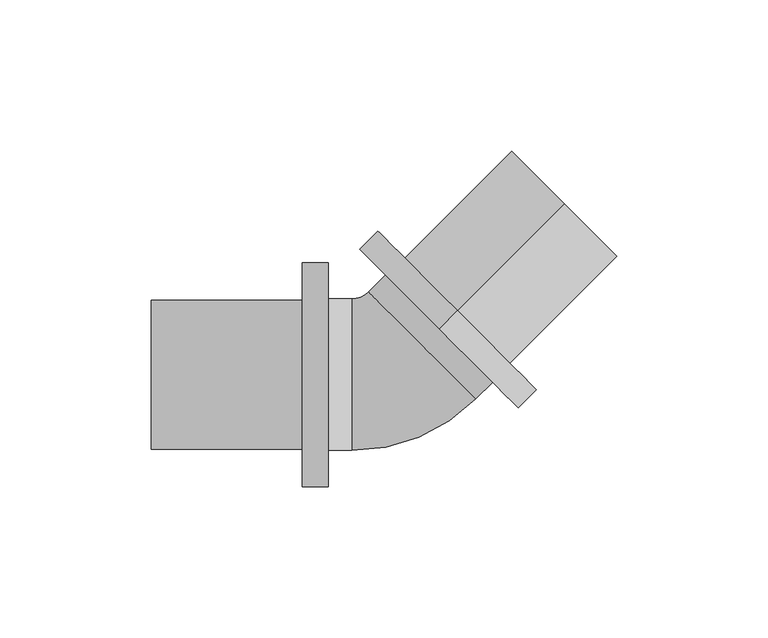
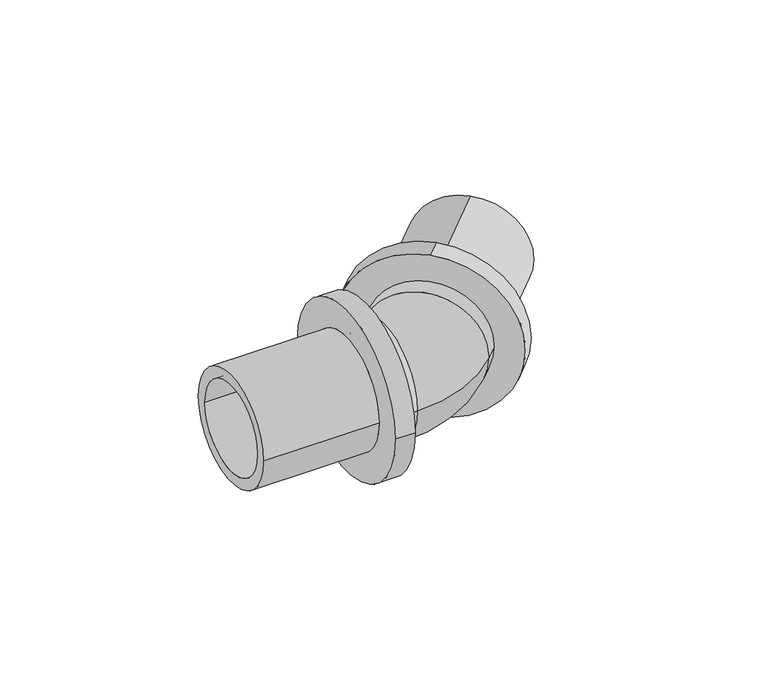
"""IFC4 building model written with IfcOpenShell, lengths in millimetres: pipe fitting geometry, RAUTITAN_Corner_RX+ : RTI RX+ C DN."""

from ifc_helpers import new_model, si_unit, point, frame, origin, place, context, project, spatial, polyline, circle_curve, ellipse_curve, trimmed, source, transform, mapped, element, save
from ifc_brep_helpers import plane_surface, cylinder_surface, revolved_surface, advanced_brep


def pipe_fitting_d3b0917d(model_context):
    return source(origin(), model_context, "Body", "AdvancedBrep", [
        advanced_brep(
        [(21.2132034, 21.2132034, 37.05), (21.2132034, 21.2132034, -37.05), (15.2027958, 15.2027958, -37.05), (15.2027958, 15.2027958, 37.05), (56.5685425, 56.5685425, 24.65), (56.5685425, 56.5685425, -24.65), (21.2132034, 21.2132034, -24.65), (21.2132034, 21.2132034, 24.65), (15.2027958, 15.2027958, 19.75), (15.2027958, 15.2027958, -19.75), (56.5685425, 56.5685425, -19.75), (56.5685425, 56.5685425, 19.75)],
        [
            (0, 1, circle_curve(frame((21.2132034, 21.2132034, 0.0), z_axis=(-0.707106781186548, -0.707106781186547, 0.0), x_axis=(0.0, 0.0, -1.0)), 37.05)),
            (1, 2),
            (2, 3, circle_curve(frame((15.2027958, 15.2027958, 0.0), z_axis=(0.707106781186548, 0.707106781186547, 0.0), x_axis=(0.0, 0.0, -1.0)), 37.05)),
            (3, 0),
            (4, 5, circle_curve(frame((56.5685425, 56.5685425, 0.0), z_axis=(-0.707106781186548, -0.707106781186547, 0.0), x_axis=(0.0, 0.0, -1.0)), 24.65)),
            (5, 6),
            (6, 7, circle_curve(frame((21.2132034, 21.2132034, 0.0), z_axis=(0.707106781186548, 0.707106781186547, 0.0), x_axis=(0.0, 0.0, -1.0)), 24.65)),
            (7, 4),
            (8, 9, circle_curve(frame((15.2027958, 15.2027958, 0.0), z_axis=(-0.707106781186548, -0.707106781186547, 0.0), x_axis=(0.0, 0.0, -1.0)), 19.75)),
            (9, 10),
            (10, 11, circle_curve(frame((56.5685425, 56.5685425, 0.0), z_axis=(0.707106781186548, 0.707106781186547, 0.0), x_axis=(0.0, 0.0, -1.0)), 19.75)),
            (11, 8),
            (1, 0, circle_curve(frame((21.2132034, 21.2132034, 0.0), z_axis=(-0.707106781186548, -0.707106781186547, 0.0), x_axis=(0.0, 0.0, 1.0)), 37.05)),
            (3, 2, circle_curve(frame((15.2027958, 15.2027958, 0.0), z_axis=(0.707106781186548, 0.707106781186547, 0.0), x_axis=(0.0, 0.0, 1.0)), 37.05)),
            (6, 7, circle_curve(frame((21.2132034, 21.2132034, 0.0), z_axis=(-0.707106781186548, -0.707106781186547, 0.0), x_axis=(0.0, 0.0, 1.0)), 24.65)),
            (5, 4, circle_curve(frame((56.5685425, 56.5685425, 0.0), z_axis=(-0.707106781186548, -0.707106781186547, 0.0), x_axis=(0.0, 0.0, 1.0)), 24.65)),
            (10, 11, circle_curve(frame((56.5685425, 56.5685425, 0.0), z_axis=(-0.707106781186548, -0.707106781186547, 0.0), x_axis=(0.0, 0.0, 1.0)), 19.75)),
            (9, 8, circle_curve(frame((15.2027958, 15.2027958, 0.0), z_axis=(-0.707106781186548, -0.707106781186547, 0.0), x_axis=(0.0, 0.0, 1.0)), 19.75)),
        ],
        [
            cylinder_surface(frame((15.2027958, 15.2027958, 0.0), z_axis=(0.707106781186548, 0.707106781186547, 0.0), x_axis=(0.0, 0.0, -1.0)), 37.05),
            cylinder_surface(frame((15.2027958, 15.2027958, 0.0), z_axis=(0.707106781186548, 0.707106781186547, 0.0), x_axis=(0.0, 0.0, -1.0)), 24.65),
            revolved_surface(polyline([(56.568542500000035, 56.56854249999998, -19.75), (15.2027958, 15.2027958, -19.75)]), (15.2027958, 15.2027958, 0.0), (0.707106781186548, 0.707106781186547, 0.0)),
            cylinder_surface(frame((15.2027958, 15.2027958, 0.0), z_axis=(0.707106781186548, 0.707106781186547, 0.0), x_axis=(0.0, 0.0, 1.0)), 37.05),
            plane_surface(frame((21.2132034, 21.2132034, 0.0), z_axis=(0.707106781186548, 0.707106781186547, 0.0), x_axis=(0.0, 0.0, 1.0))),
            cylinder_surface(frame((15.2027958, 15.2027958, 0.0), z_axis=(0.707106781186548, 0.707106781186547, 0.0), x_axis=(0.0, 0.0, 1.0)), 24.65),
            plane_surface(frame((56.5685425, 56.5685425, 0.0), z_axis=(0.707106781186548, 0.707106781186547, 0.0), x_axis=(0.0, 0.0, 1.0))),
            revolved_surface(polyline([(56.568542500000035, 56.56854249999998, 19.75), (15.2027958, 15.2027958, 19.75)]), (15.2027958, 15.2027958, 0.0), (0.707106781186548, 0.707106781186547, 0.0)),
            plane_surface(frame((15.2027958, 15.2027958, 0.0), z_axis=(-0.707106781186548, -0.707106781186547, 0.0), x_axis=(0.0, 0.0, 1.0))),
        ],
        [
            (0, [[1, 2, 3, 4]]),
            (1, [[5, 6, 7, 8]]),
            (2, [[9, 10, 11, 12]]),
            (3, [[13, -4, 14, -2]]),
            (4, [[-13, -1], [15, -7]]),
            (5, [[16, -8, -15, -6]]),
            (6, [[-16, -5], [17, -11]]),
            (7, [[18, -12, -17, -10]]),
            (8, [[-14, -3], [-18, -9]]),
        ],
    ),
        advanced_brep(
        [(-30.0, -37.05, 0.0), (-30.0, 37.05, 0.0), (-21.5, 37.05, 0.0), (-21.5, -37.05, 0.0), (-80.0, -24.65, 0.0), (-80.0, 24.65, 0.0), (-30.0, 24.65, 0.0), (-30.0, -24.65, 0.0), (-21.5, -19.75, 0.0), (-21.5, 19.75, 0.0), (-80.0, 19.75, 0.0), (-80.0, -19.75, 0.0)],
        [
            (0, 1, circle_curve(frame((-30.0, 0.0, 0.0), z_axis=(1.0, 0.0, 0.0), x_axis=(0.0, 1.0, 0.0)), 37.05)),
            (1, 2),
            (2, 3, circle_curve(frame((-21.5, 0.0, 0.0), z_axis=(-1.0, 0.0, 0.0), x_axis=(0.0, 1.0, 0.0)), 37.05)),
            (3, 0),
            (4, 5, circle_curve(frame((-80.0, 0.0, 0.0), z_axis=(1.0, 0.0, 0.0), x_axis=(0.0, 1.0, 0.0)), 24.65)),
            (5, 6),
            (6, 7, circle_curve(frame((-30.0, 0.0, 0.0), z_axis=(-1.0, 0.0, 0.0), x_axis=(0.0, 1.0, 0.0)), 24.65)),
            (7, 4),
            (8, 9, circle_curve(frame((-21.5, 0.0, 0.0), z_axis=(1.0, 0.0, 0.0), x_axis=(0.0, 1.0, 0.0)), 19.75)),
            (9, 10),
            (10, 11, circle_curve(frame((-80.0, 0.0, 0.0), z_axis=(-1.0, 0.0, 0.0), x_axis=(0.0, 1.0, 0.0)), 19.75)),
            (11, 8),
            (1, 0, circle_curve(frame((-30.0, 0.0, 0.0), z_axis=(1.0, 0.0, 0.0), x_axis=(0.0, -1.0, 0.0)), 37.05)),
            (3, 2, circle_curve(frame((-21.5, 0.0, 0.0), z_axis=(-1.0, 0.0, 0.0), x_axis=(0.0, -1.0, 0.0)), 37.05)),
            (6, 7, circle_curve(frame((-30.0, 0.0, 0.0), z_axis=(1.0, 0.0, 0.0), x_axis=(0.0, -1.0, 0.0)), 24.65)),
            (5, 4, circle_curve(frame((-80.0, 0.0, 0.0), z_axis=(1.0, 0.0, 0.0), x_axis=(0.0, -1.0, 0.0)), 24.65)),
            (10, 11, circle_curve(frame((-80.0, 0.0, 0.0), z_axis=(1.0, 0.0, 0.0), x_axis=(0.0, -1.0, 0.0)), 19.75)),
            (9, 8, circle_curve(frame((-21.5, 0.0, 0.0), z_axis=(1.0, 0.0, 0.0), x_axis=(0.0, -1.0, 0.0)), 19.75)),
        ],
        [
            cylinder_surface(frame((-21.5, 0.0, 0.0), z_axis=(-1.0, 0.0, 0.0), x_axis=(0.0, 1.0, 0.0)), 37.05),
            cylinder_surface(frame((-21.5, 0.0, 0.0), z_axis=(-1.0, 0.0, 0.0), x_axis=(0.0, 1.0, 0.0)), 24.65),
            revolved_surface(polyline([(-80.0, 19.75, 0.0), (-21.5, 19.75, 0.0)]), (-21.5, 0.0, 0.0), (-1.0, 0.0, 0.0)),
            cylinder_surface(frame((-21.5, 0.0, 0.0), z_axis=(-1.0, 0.0, 0.0), x_axis=(0.0, -1.0, 0.0)), 37.05),
            plane_surface(frame((-30.0, 0.0, 0.0), z_axis=(-1.0, 0.0, 0.0), x_axis=(0.0, -1.0, 0.0))),
            cylinder_surface(frame((-21.5, 0.0, 0.0), z_axis=(-1.0, 0.0, 0.0), x_axis=(0.0, -1.0, 0.0)), 24.65),
            plane_surface(frame((-80.0, 0.0, 0.0), z_axis=(-1.0, 0.0, 0.0), x_axis=(0.0, -1.0, 0.0))),
            revolved_surface(polyline([(-80.0, -19.75, 0.0), (-21.5, -19.75, 0.0)]), (-21.5, 0.0, 0.0), (-1.0, 0.0, 0.0)),
            plane_surface(frame((-21.5, 0.0, 0.0), z_axis=(1.0, 0.0, 0.0), x_axis=(0.0, -1.0, 0.0))),
        ],
        [
            (0, [[1, 2, 3, 4]]),
            (1, [[5, 6, 7, 8]]),
            (2, [[9, 10, 11, 12]]),
            (3, [[13, -4, 14, -2]]),
            (4, [[-13, -1], [15, -7]]),
            (5, [[16, -8, -15, -6]]),
            (6, [[-16, -5], [17, -11]]),
            (7, [[18, -12, -17, -10]]),
            (8, [[-14, -3], [-18, -9]]),
        ],
    ),
        advanced_brep(
        [(-21.5, 25.05, 0.0), (-21.5, -25.05, 0.0), (-21.5, 19.75, 0.0), (-21.5, -19.75, 0.0), (-13.6690476, -19.75, 0.0), (-13.6690476, 0.0, -19.75), (-13.6690476, 19.75, 0.0), (-13.6690476, 0.0, 19.75), (-13.6690476, -25.05, 0.0), (-13.6690476, 25.05, 0.0), (32.9158207, -2.5102291, 0.0), (-2.5102291, 32.9158207, 0.0), (29.1681547, 1.2374369, 0.0), (1.2374369, 29.1681547, 0.0), (-4.2998827, 23.6308351, 0.0), (9.6654762, 9.6654762, -19.75), (23.6308351, -4.2998827, 0.0), (9.6654762, 9.6654762, 19.75), (-8.0475486, 27.3785011, 0.0), (27.3785011, -8.0475486, 0.0)],
        [
            (0, 1, circle_curve(frame((-21.5, 0.0, 0.0), z_axis=(-1.0, 0.0, 0.0), x_axis=(0.0, -1.0, 0.0)), 25.05)),
            (1, 0, circle_curve(frame((-21.5, 0.0, 0.0), z_axis=(-1.0, 0.0, 0.0), x_axis=(0.0, -1.0, 0.0)), 25.05)),
            (2, 3, circle_curve(frame((-21.5, 0.0, 0.0), z_axis=(1.0, 0.0, 0.0), x_axis=(0.0, -1.0, 0.0)), 19.75)),
            (3, 2, circle_curve(frame((-21.5, 0.0, 0.0), z_axis=(1.0, 0.0, 0.0), x_axis=(0.0, -1.0, 0.0)), 19.75)),
            (3, 4),
            (4, 5, circle_curve(frame((-13.6690476, 0.0, 0.0), z_axis=(1.0, 0.0, 0.0), x_axis=(0.0, -1.0, 0.0)), 19.75)),
            (5, 6, circle_curve(frame((-13.6690476, 0.0, 0.0), z_axis=(1.0, 0.0, 0.0), x_axis=(0.0, -1.0, 0.0)), 19.75)),
            (6, 2),
            (6, 7, circle_curve(frame((-13.6690476, 0.0, 0.0), z_axis=(1.0, 0.0, 0.0), x_axis=(0.0, -1.0, 0.0)), 19.75)),
            (7, 4, circle_curve(frame((-13.6690476, 0.0, 0.0), z_axis=(1.0, 0.0, 0.0), x_axis=(0.0, -1.0, 0.0)), 19.75)),
            (1, 8),
            (8, 9, circle_curve(frame((-13.6690476, 0.0, 0.0), z_axis=(-1.0, 0.0, 0.0), x_axis=(0.0, -1.0, 0.0)), 25.05)),
            (9, 0),
            (9, 8, circle_curve(frame((-13.6690476, 0.0, 0.0), z_axis=(-1.0, 0.0, 0.0), x_axis=(0.0, -1.0, 0.0)), 25.05)),
            (10, 11, circle_curve(frame((15.2027958, 15.2027958, 0.0), z_axis=(0.7071067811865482, 0.7071067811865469, 0.0), x_axis=(-0.7071067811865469, 0.7071067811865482, 0.0)), 25.05)),
            (11, 10, circle_curve(frame((15.2027958, 15.2027958, 0.0), z_axis=(0.7071067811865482, 0.7071067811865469, 0.0), x_axis=(-0.7071067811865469, 0.7071067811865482, 0.0)), 25.05)),
            (12, 13, circle_curve(frame((15.2027958, 15.2027958, 0.0), z_axis=(-0.7071067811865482, -0.7071067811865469, 0.0), x_axis=(-0.7071067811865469, 0.7071067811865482, 0.0)), 19.75)),
            (13, 12, circle_curve(frame((15.2027958, 15.2027958, 0.0), z_axis=(-0.7071067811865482, -0.7071067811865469, 0.0), x_axis=(-0.7071067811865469, 0.7071067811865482, 0.0)), 19.75)),
            (13, 14),
            (14, 15, circle_curve(frame((9.6654762, 9.6654762, 0.0), z_axis=(-0.7071067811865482, -0.7071067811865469, 0.0), x_axis=(-0.7071067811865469, 0.7071067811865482, 0.0)), 19.75)),
            (15, 16, circle_curve(frame((9.6654762, 9.6654762, 0.0), z_axis=(-0.7071067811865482, -0.7071067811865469, 0.0), x_axis=(-0.7071067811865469, 0.7071067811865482, 0.0)), 19.75)),
            (16, 12),
            (16, 17, circle_curve(frame((9.6654762, 9.6654762, 0.0), z_axis=(-0.7071067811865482, -0.7071067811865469, 0.0), x_axis=(-0.7071067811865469, 0.7071067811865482, 0.0)), 19.75)),
            (17, 14, circle_curve(frame((9.6654762, 9.6654762, 0.0), z_axis=(-0.7071067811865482, -0.7071067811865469, 0.0), x_axis=(-0.7071067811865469, 0.7071067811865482, 0.0)), 19.75)),
            (11, 18),
            (18, 19, circle_curve(frame((9.6654762, 9.6654762, 0.0), z_axis=(0.7071067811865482, 0.7071067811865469, 0.0), x_axis=(-0.7071067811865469, 0.7071067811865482, 0.0)), 25.05)),
            (19, 10),
            (19, 18, circle_curve(frame((9.6654762, 9.6654762, 0.0), z_axis=(0.7071067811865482, 0.7071067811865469, 0.0), x_axis=(-0.7071067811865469, 0.7071067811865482, 0.0)), 25.05)),
            (14, 6, circle_curve(frame((-13.6690476, 33.0, 0.0), z_axis=(0.0, 0.0, -1.0), x_axis=(0.0, -1.0, 0.0)), 13.25)),
            (4, 16, circle_curve(frame((-13.6690476, 33.0, 0.0), z_axis=(0.0, 0.0, 1.0), x_axis=(0.0, -1.0, 0.0)), 52.75)),
            (18, 9, circle_curve(frame((-13.6690476, 33.0, 0.0), z_axis=(0.0, 0.0, -1.0), x_axis=(0.0, -1.0, 0.0)), 7.95)),
            (8, 19, circle_curve(frame((-13.6690476, 33.0, 0.0), z_axis=(0.0, 0.0, 1.0), x_axis=(0.0, -1.0, 0.0)), 58.05)),
        ],
        [
            plane_surface(frame((-21.5, 0.0, 0.0), z_axis=(-1.0, 0.0, 0.0), x_axis=(0.0, 0.0, 1.0))),
            revolved_surface(polyline([(-21.5, -19.75, 0.0), (-13.6690476, -19.75, 0.0)]), (-13.6690476, 0.0, 0.0), (-1.0, 0.0, 0.0)),
            cylinder_surface(frame((-13.6690476, 0.0, 0.0), z_axis=(1.0, 0.0, 0.0), x_axis=(0.0, -1.0, 0.0)), 25.05),
            plane_surface(frame((15.2027958, 15.2027958, 0.0), z_axis=(0.7071067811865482, 0.7071067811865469, 0.0), x_axis=(0.0, 0.0, 1.0))),
            revolved_surface(polyline([(1.2374368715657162, 29.168154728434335, 0.0), (-4.299882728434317, 23.630835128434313, 0.0)]), (9.6654762, 9.6654762, 0.0), (0.7071067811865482, 0.7071067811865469, 0.0)),
            cylinder_surface(frame((9.6654762, 9.6654762, 0.0), z_axis=(-0.7071067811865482, -0.7071067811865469, 0.0), x_axis=(-0.7071067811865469, 0.7071067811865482, 0.0)), 25.05),
            revolved_surface(trimmed(ellipse_curve(frame((-13.6690476, 0.0, 0.0), z_axis=(1.0, 0.0, 0.0), x_axis=(0.0, 1.0, 0.0)), 19.75, 19.75), [point((-13.6690476, -19.75, 0.0))], [point((-13.6690476, 19.75, 0.0))], True, "CARTESIAN"), (-13.6690476, 33.0, 0.0), (0.0, 0.0, 1.0)),
            revolved_surface(trimmed(ellipse_curve(frame((-13.6690476, 0.0, 0.0), z_axis=(1.0, 0.0, 0.0), x_axis=(0.0, 1.0, 0.0)), 19.75, 19.75), [point((-13.6690476, 19.75, 0.0))], [point((-13.6690476, -19.75, 0.0))], True, "CARTESIAN"), (-13.6690476, 33.0, 0.0), (0.0, 0.0, 1.0)),
            revolved_surface(trimmed(ellipse_curve(frame((-13.6690476, 0.0, 0.0), z_axis=(-1.0, 0.0, 0.0), x_axis=(0.0, 1.0, 0.0)), 25.05, 25.05), [point((-13.6690476, -25.05, 0.0))], [point((-13.6690476, 25.05, 0.0))], True, "CARTESIAN"), (-13.6690476, 33.0, 0.0), (0.0, 0.0, 1.0)),
            revolved_surface(trimmed(ellipse_curve(frame((-13.6690476, 0.0, 0.0), z_axis=(-1.0, 0.0, 0.0), x_axis=(0.0, 1.0, 0.0)), 25.05, 25.05), [point((-13.6690476, 25.05, 0.0))], [point((-13.6690476, -25.05, 0.0))], True, "CARTESIAN"), (-13.6690476, 33.0, 0.0), (0.0, 0.0, 1.0)),
        ],
        [
            (0, [[1, 2], [3, 4]]),
            (1, [[-4, 5, 6, 7, 8]]),
            (1, [[-3, -8, 9, 10, -5]]),
            (2, [[-2, 11, 12, 13]]),
            (2, [[-1, -13, 14, -11]]),
            (3, [[15, 16], [17, 18]]),
            (4, [[-18, 19, 20, 21, 22]]),
            (4, [[-17, -22, 23, 24, -19]]),
            (5, [[-16, 25, 26, 27]]),
            (5, [[-15, -27, 28, -25]]),
            (6, [[29, -7, -6, 30, -21, -20]]),
            (7, [[-29, -24, -23, -30, -10, -9]]),
            (8, [[31, -12, 32, -26]]),
            (9, [[-31, -28, -32, -14]]),
        ],
    ),
    ])


if __name__ == "__main__":
    model = new_model("IFC4")
    model_context = context("Model", 3, world=origin())
    ifc_project = project(units=[si_unit("LENGTHUNIT", "METRE", prefix="MILLI")], contexts=[model_context])
    site = spatial("IfcSite", under=ifc_project)
    building = spatial("IfcBuilding", under=site)
    placement = place(None, origin())
    pipe_fitting_shape = pipe_fitting_d3b0917d(model_context)
    element("IfcPipeFitting", 1, ObjectType="RAUTITAN_Corner_RX+ : RTI RX+ C DN", at=placement, inside=building, context=model_context, shape_type="MappedRepresentation", body=[
        mapped(pipe_fitting_shape, transform((0.0, 0.0, 0.0), x_axis=(1.0, 0.0, 0.0), y_axis=(0.0, 1.0, 0.0), z_axis=(0.0, 0.0, 1.0))),
    ])
    save(model, "model.ifc")
